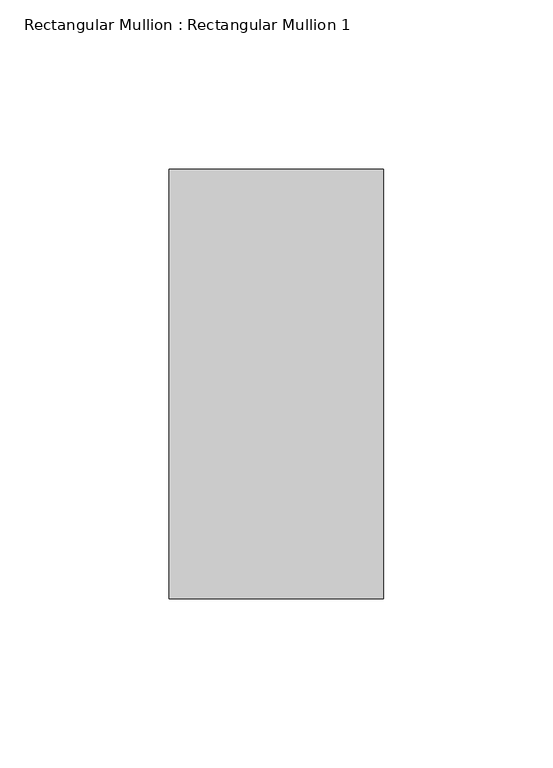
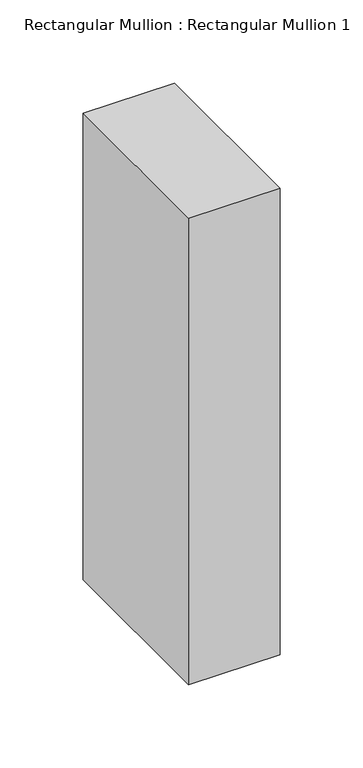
"""IFC4 building model written with IfcOpenShell, lengths in millimetres: member geometry, Rectangular Mullion : Rectangular Mullion 1."""

from ifc_helpers import new_model, si_unit, frame, origin, place, context, project, spatial, polyline, outline, extrude, source, transform, mapped, element, save


def rectangular_mullion_rectangular_mullion_1_1f17a5e5(model_context):
    return source(origin(), model_context, "Body", "SweptSolid", [
        extrude(outline(polyline([(31.75, 63.5), (31.75, -63.5), (-31.75, -63.5), (-31.75, 63.5), (31.75, 63.5)])), frame((0.0, 0.0, -342.6209562), z_axis=(0.0, 0.0, 1.0), x_axis=(1.0, 0.0, 0.0)), (0.0, 0.0, 1.0), 342.6209562),
    ])


if __name__ == "__main__":
    model = new_model("IFC4")
    model_context = context("Model", 3, world=origin())
    ifc_project = project(units=[si_unit("LENGTHUNIT", "METRE", prefix="MILLI")], contexts=[model_context])
    site = spatial("IfcSite", under=ifc_project)
    building = spatial("IfcBuilding", under=site)
    placement = place(None, origin())
    rectangular_mullion_rectangular_mullion_1_shape = rectangular_mullion_rectangular_mullion_1_1f17a5e5(model_context)
    element("IfcMember", 1, ObjectType="Rectangular Mullion : Rectangular Mullion 1", at=placement, inside=building, context=model_context, shape_type="MappedRepresentation", body=[
        mapped(rectangular_mullion_rectangular_mullion_1_shape, transform((0.0, 0.0, 0.0), x_axis=(1.0, 0.0, 0.0), y_axis=(0.0, 1.0, 0.0), z_axis=(0.0, 0.0, 1.0))),
    ])
    save(model, "model.ifc")
